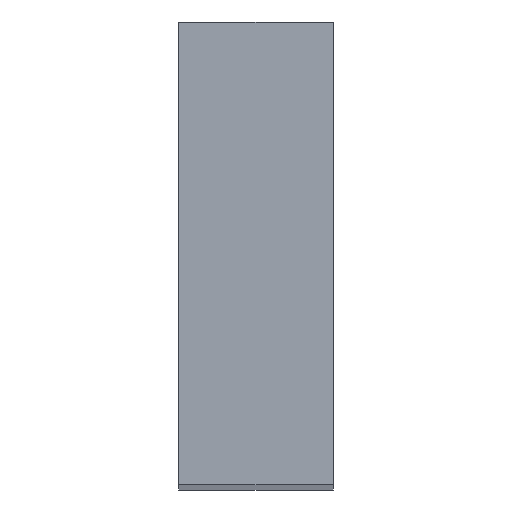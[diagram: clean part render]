
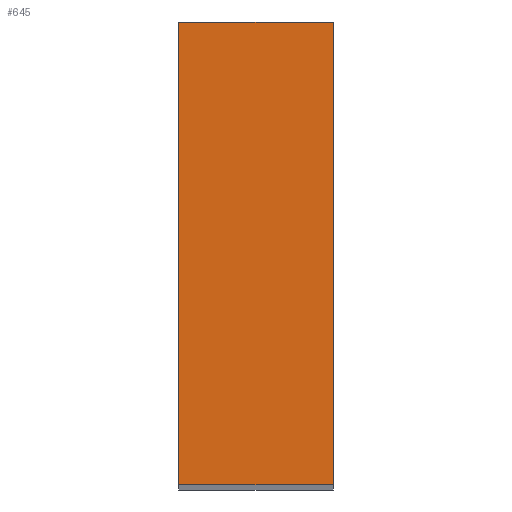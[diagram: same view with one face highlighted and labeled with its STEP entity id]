
A CAD part, top view. The second image highlights one B-rep face of the part: STEP entity #645.
In plain terms, the highlighted planar face has unit normal (0, 0, 1).
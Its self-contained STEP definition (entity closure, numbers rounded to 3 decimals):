
#73 = PLANE('',#74);
#74 = AXIS2_PLACEMENT_3D('',#75,#76,#77);
#75 = CARTESIAN_POINT('',(0.,0.,56.5));
#76 = DIRECTION('',(-1.,0.,0.));
#77 = DIRECTION('',(0.,-1.,0.));
#123 = PLANE('',#124);
#124 = AXIS2_PLACEMENT_3D('',#125,#126,#127);
#125 = CARTESIAN_POINT('',(3.,0.,56.5));
#126 = DIRECTION('',(-1.,0.,0.));
#127 = DIRECTION('',(0.,-1.,0.));
#256 = PLANE('',#257);
#257 = AXIS2_PLACEMENT_3D('',#258,#259,#260);
#258 = CARTESIAN_POINT('',(0.,0.,56.5));
#259 = DIRECTION('',(0.,1.,0.));
#260 = DIRECTION('',(0.,-0.,1.));
#281 = VERTEX_POINT('',#282);
#282 = CARTESIAN_POINT('',(3.,0.,56.5));
#303 = EDGE_CURVE('',#304,#281,#306,.T.);
#304 = VERTEX_POINT('',#305);
#305 = CARTESIAN_POINT('',(0.,0.,56.5));
#306 = SURFACE_CURVE('',#307,(#311,#318),.PCURVE_S1.);
#307 = LINE('',#308,#309);
#308 = CARTESIAN_POINT('',(0.,0.,56.5));
#309 = VECTOR('',#310,1.);
#310 = DIRECTION('',(1.,0.,0.));
#311 = PCURVE('',#256,#312);
#312 = DEFINITIONAL_REPRESENTATION('',(#313),#317);
#313 = LINE('',#314,#315);
#314 = CARTESIAN_POINT('',(0.,0.));
#315 = VECTOR('',#316,1.);
#316 = DIRECTION('',(0.,1.));
#317 = ( GEOMETRIC_REPRESENTATION_CONTEXT(2) 
PARAMETRIC_REPRESENTATION_CONTEXT() REPRESENTATION_CONTEXT('2D SPACE',''
  ) );
#318 = PCURVE('',#319,#324);
#319 = PLANE('',#320);
#320 = AXIS2_PLACEMENT_3D('',#321,#322,#323);
#321 = CARTESIAN_POINT('',(0.,0.,56.5));
#322 = DIRECTION('',(0.,-0.,1.));
#323 = DIRECTION('',(1.,0.,0.));
#324 = DEFINITIONAL_REPRESENTATION('',(#325),#329);
#325 = LINE('',#326,#327);
#326 = CARTESIAN_POINT('',(0.,0.));
#327 = VECTOR('',#328,1.);
#328 = DIRECTION('',(1.,0.));
#329 = ( GEOMETRIC_REPRESENTATION_CONTEXT(2) 
PARAMETRIC_REPRESENTATION_CONTEXT() REPRESENTATION_CONTEXT('2D SPACE',''
  ) );
#429 = VERTEX_POINT('',#430);
#430 = CARTESIAN_POINT('',(3.,9.,56.5));
#444 = PLANE('',#445);
#445 = AXIS2_PLACEMENT_3D('',#446,#447,#448);
#446 = CARTESIAN_POINT('',(0.,9.,56.5));
#447 = DIRECTION('',(0.,1.,0.));
#448 = DIRECTION('',(0.,-0.,1.));
#456 = EDGE_CURVE('',#281,#429,#457,.T.);
#457 = SURFACE_CURVE('',#458,(#462,#469),.PCURVE_S1.);
#458 = LINE('',#459,#460);
#459 = CARTESIAN_POINT('',(3.,0.,56.5));
#460 = VECTOR('',#461,1.);
#461 = DIRECTION('',(0.,1.,0.));
#462 = PCURVE('',#123,#463);
#463 = DEFINITIONAL_REPRESENTATION('',(#464),#468);
#464 = LINE('',#465,#466);
#465 = CARTESIAN_POINT('',(0.,0.));
#466 = VECTOR('',#467,1.);
#467 = DIRECTION('',(-1.,0.));
#468 = ( GEOMETRIC_REPRESENTATION_CONTEXT(2) 
PARAMETRIC_REPRESENTATION_CONTEXT() REPRESENTATION_CONTEXT('2D SPACE',''
  ) );
#469 = PCURVE('',#319,#470);
#470 = DEFINITIONAL_REPRESENTATION('',(#471),#475);
#471 = LINE('',#472,#473);
#472 = CARTESIAN_POINT('',(3.,0.));
#473 = VECTOR('',#474,1.);
#474 = DIRECTION('',(0.,1.));
#475 = ( GEOMETRIC_REPRESENTATION_CONTEXT(2) 
PARAMETRIC_REPRESENTATION_CONTEXT() REPRESENTATION_CONTEXT('2D SPACE',''
  ) );
#505 = VERTEX_POINT('',#506);
#506 = CARTESIAN_POINT('',(0.,9.,56.5));
#527 = EDGE_CURVE('',#505,#429,#528,.T.);
#528 = SURFACE_CURVE('',#529,(#533,#540),.PCURVE_S1.);
#529 = LINE('',#530,#531);
#530 = CARTESIAN_POINT('',(0.,9.,56.5));
#531 = VECTOR('',#532,1.);
#532 = DIRECTION('',(1.,0.,0.));
#533 = PCURVE('',#444,#534);
#534 = DEFINITIONAL_REPRESENTATION('',(#535),#539);
#535 = LINE('',#536,#537);
#536 = CARTESIAN_POINT('',(0.,0.));
#537 = VECTOR('',#538,1.);
#538 = DIRECTION('',(0.,1.));
#539 = ( GEOMETRIC_REPRESENTATION_CONTEXT(2) 
PARAMETRIC_REPRESENTATION_CONTEXT() REPRESENTATION_CONTEXT('2D SPACE',''
  ) );
#540 = PCURVE('',#319,#541);
#541 = DEFINITIONAL_REPRESENTATION('',(#542),#546);
#542 = LINE('',#543,#544);
#543 = CARTESIAN_POINT('',(0.,9.));
#544 = VECTOR('',#545,1.);
#545 = DIRECTION('',(1.,0.));
#546 = ( GEOMETRIC_REPRESENTATION_CONTEXT(2) 
PARAMETRIC_REPRESENTATION_CONTEXT() REPRESENTATION_CONTEXT('2D SPACE',''
  ) );
#624 = EDGE_CURVE('',#304,#505,#625,.T.);
#625 = SURFACE_CURVE('',#626,(#630,#637),.PCURVE_S1.);
#626 = LINE('',#627,#628);
#627 = CARTESIAN_POINT('',(0.,0.,56.5));
#628 = VECTOR('',#629,1.);
#629 = DIRECTION('',(0.,1.,0.));
#630 = PCURVE('',#73,#631);
#631 = DEFINITIONAL_REPRESENTATION('',(#632),#636);
#632 = LINE('',#633,#634);
#633 = CARTESIAN_POINT('',(0.,0.));
#634 = VECTOR('',#635,1.);
#635 = DIRECTION('',(-1.,0.));
#636 = ( GEOMETRIC_REPRESENTATION_CONTEXT(2) 
PARAMETRIC_REPRESENTATION_CONTEXT() REPRESENTATION_CONTEXT('2D SPACE',''
  ) );
#637 = PCURVE('',#319,#638);
#638 = DEFINITIONAL_REPRESENTATION('',(#639),#643);
#639 = LINE('',#640,#641);
#640 = CARTESIAN_POINT('',(0.,0.));
#641 = VECTOR('',#642,1.);
#642 = DIRECTION('',(0.,1.));
#643 = ( GEOMETRIC_REPRESENTATION_CONTEXT(2) 
PARAMETRIC_REPRESENTATION_CONTEXT() REPRESENTATION_CONTEXT('2D SPACE',''
  ) );
#645 = ADVANCED_FACE('',(#646),#319,.T.);
#646 = FACE_BOUND('',#647,.T.);
#647 = EDGE_LOOP('',(#648,#649,#650,#651));
#648 = ORIENTED_EDGE('',*,*,#303,.T.);
#649 = ORIENTED_EDGE('',*,*,#456,.T.);
#650 = ORIENTED_EDGE('',*,*,#527,.F.);
#651 = ORIENTED_EDGE('',*,*,#624,.F.);
